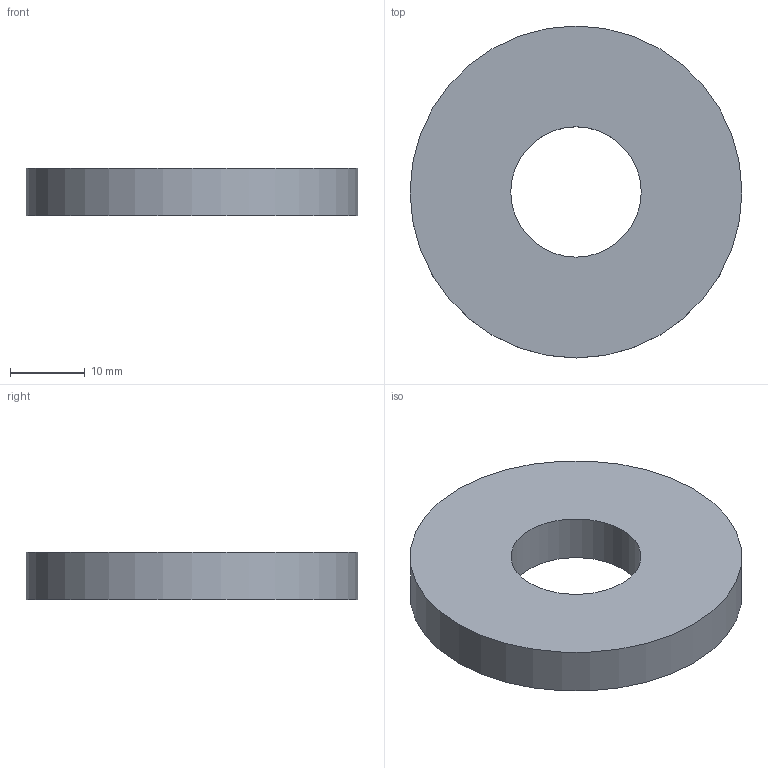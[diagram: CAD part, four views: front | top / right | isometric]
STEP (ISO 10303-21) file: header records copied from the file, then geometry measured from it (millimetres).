
FILE_DESCRIPTION(/* description */ (''),/* implementation_level */ '2;1');
FILE_NAME(/* name */ 'C:\001_Work\Designs\HLW\HLW-0625.stp',/* time_stamp */ '2015-09-04T08:34:48-04:00',/* author */ ('rramoutar'),/* organization */ ('Mason Industries Inc.'),/* preprocessor_version */ 'ST-DEVELOPER v15.6',/* originating_system */ 'Autodesk Inventor 2015',/* authorisation */ '');
FILE_SCHEMA (('AUTOMOTIVE_DESIGN { 1 0 10303 214 3 1 1 }'));
Length unit declared in the file: inch
Products named in the file (1): HLW-0625
Bounding box: 44.45 x 44.45 x 6.35 mm (x, y, z)
Volume: 8333.1 mm3; surface area: 3859.7 mm2
Topology: 1 solids, 1 shells, 4 faces, 6 edges, 4 vertices
Faces by surface type: cylinder 2, plane 2
Full cylindrical faces by diameter (mm): 17.462 x1, 44.45 x1
Entity records: 114 total; most frequent: DIRECTION 18, CARTESIAN_POINT 13, AXIS2_PLACEMENT_3D 9, EDGE_LOOP 8, ORIENTED_EDGE 8, FACE_BOUND 4, FACE_OUTER_BOUND 4, CIRCLE 4
